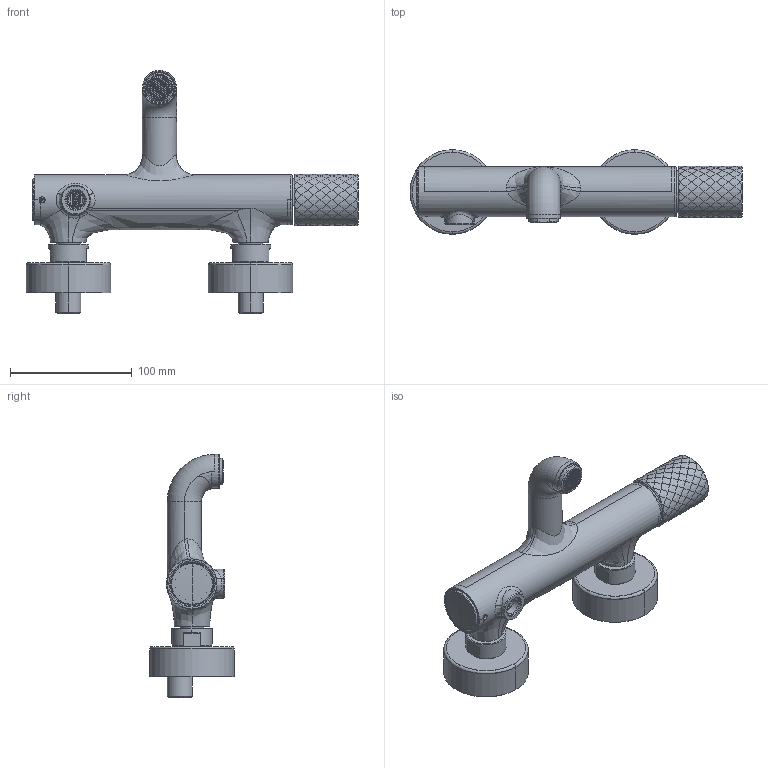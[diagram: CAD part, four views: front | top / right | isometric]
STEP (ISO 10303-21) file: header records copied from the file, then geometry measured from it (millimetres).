
FILE_DESCRIPTION((''),'2;1');
FILE_NAME('F3034T_1NX','2024-06-12T14:52:54',('ivanv'),(''),'CREO PARAMETRIC BY PTC INC, 2021184','CREO PARAMETRIC BY PTC INC, 2021184','');
FILE_SCHEMA(('CONFIG_CONTROL_DESIGN'));
Length unit declared in the file: millimetre
Products named in the file (1): F3034T_1NX
Bounding box: 272.95 x 69.5 x 200 mm (x, y, z)
Volume: 242120.4 mm3; surface area: 180417.4 mm2
Topology: 4 solids, 6 shells, 6787 faces, 17311 edges, 11032 vertices
Faces by surface type: plane 4048, cylinder 1218, cone 716, bspline 416, torus 288, extrusion 74, sphere 27
Entity records: 301897 total; most frequent: CARTESIAN_POINT 156158, ORIENTED_EDGE 34522, DIRECTION 22753, EDGE_CURVE 17261, VERTEX_POINT 11032, B_SPLINE_CURVE_WITH_KNOTS 9087, AXIS2_PLACEMENT_3D 8134, EDGE_LOOP 7373
